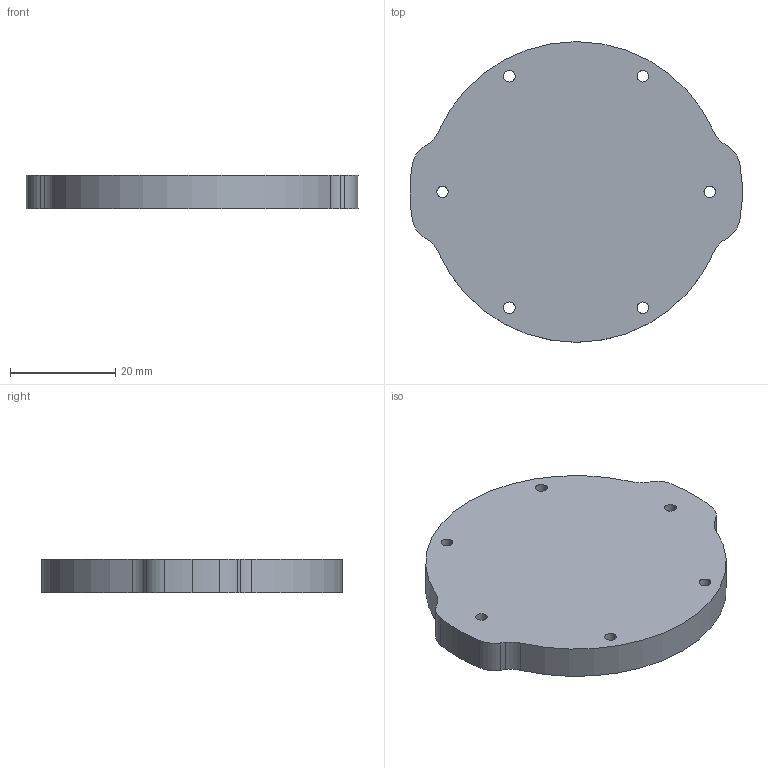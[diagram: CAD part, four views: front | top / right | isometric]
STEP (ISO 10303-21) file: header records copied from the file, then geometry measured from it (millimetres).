
FILE_DESCRIPTION (( 'STEP AP203' ), '1' );
FILE_NAME ('WTC-P-END-CAP-2-R1.STEP', '2015-07-13T02:12:08', ( 'rjehangir' ), ( '' ), 'SwSTEP 2.0', 'SolidWorks 2012', '' );
FILE_SCHEMA (( 'CONFIG_CONTROL_DESIGN' ));
Length unit declared in the file: millimetre
Products named in the file (1): WTC-P-END-CAP-2-R1
Bounding box: 63.1 x 57.15 x 6.35 mm (x, y, z)
Volume: 16810.1 mm3; surface area: 6740.2 mm2
Topology: 1 solids, 1 shells, 31 faces, 87 edges, 58 vertices
Faces by surface type: cylinder 25, plane 6
Entity records: 1132 total; most frequent: DIRECTION 201, CARTESIAN_POINT 177, ORIENTED_EDGE 174, EDGE_CURVE 87, AXIS2_PLACEMENT_3D 82, VERTEX_POINT 58, CIRCLE 50, EDGE_LOOP 43
